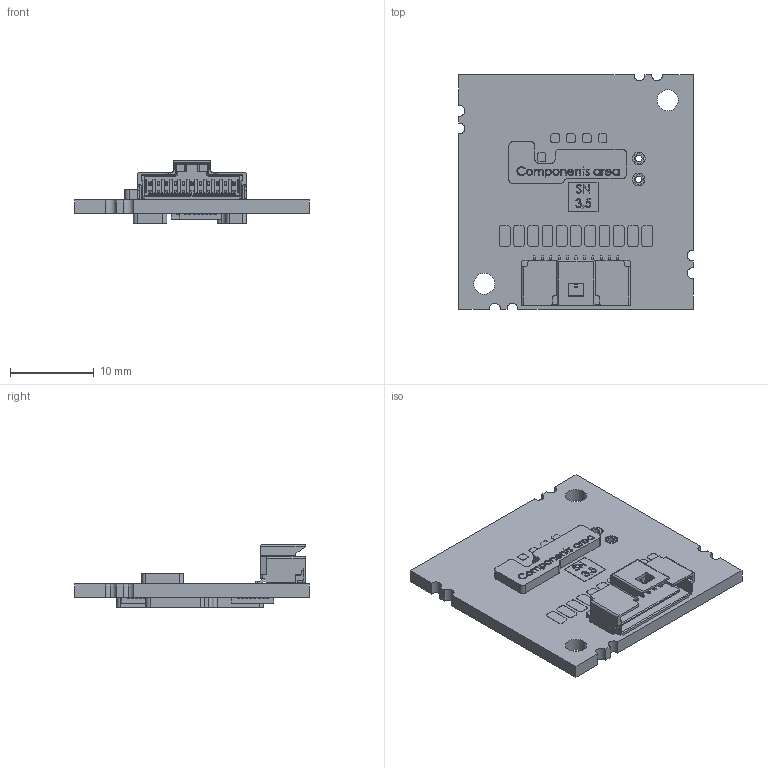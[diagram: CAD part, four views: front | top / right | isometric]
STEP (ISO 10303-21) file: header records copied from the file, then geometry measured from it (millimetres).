
FILE_DESCRIPTION (( 'STEP AP214' ), '1' );
FILE_NAME ('RTB28Ux.STEP', '2025-11-21T06:13:03', ( '' ), ( '' ), 'SwSTEP 2.0', 'SolidWorks 2024', '' );
FILE_SCHEMA (( 'AUTOMOTIVE_DESIGN' ));
Length unit declared in the file: millimetre
Products named in the file (1): RTB28Ux
Bounding box: 28 x 28 x 7.5 mm (x, y, z)
Volume: 1542.6 mm3; surface area: 2475.7 mm2
Topology: 2 solids, 17 shells, 2907 faces, 8034 edges, 5264 vertices
Faces by surface type: plane 2106, bspline 449, cylinder 260, cone 92
Entity records: 118876 total; most frequent: CARTESIAN_POINT 41686, ORIENTED_EDGE 16066, DIRECTION 12399, EDGE_CURVE 8033, VECTOR 6301, LINE 6301, VERTEX_POINT 5264, EDGE_LOOP 3105
